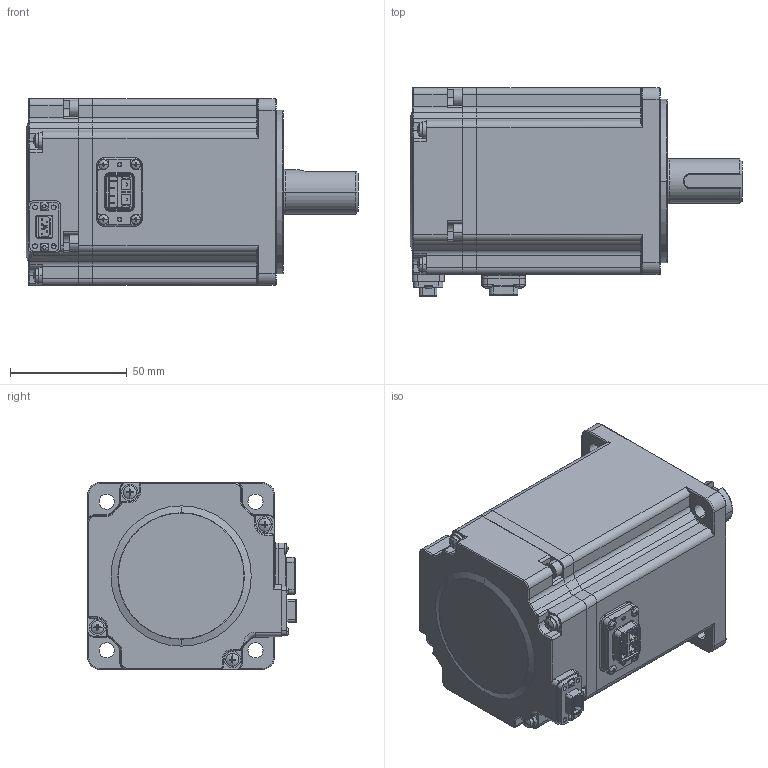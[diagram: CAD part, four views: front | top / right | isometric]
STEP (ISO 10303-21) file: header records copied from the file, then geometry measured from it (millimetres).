
FILE_DESCRIPTION(('FreeCAD Model'),'2;1');
FILE_NAME('Open CASCADE Shape Model','2025-03-17T11:45:41',('Author'),( ''),'Open CASCADE STEP processor 7.6','FreeCAD','Unknown');
FILE_SCHEMA(('AUTOMOTIVE_DESIGN { 1 0 10303 214 1 1 1 1 }'));
Length unit declared in the file: millimetre
Products named in the file (35): PSM6S-80CS30B3-20P7; PSM6S-80CS30B3-20P008; PSM6S-80CS30B3-20P009; PSM6S-80CS30B3-20P010; PSM6S-80CS30B3-20P011; PSM6S-80CS30B3-20P012; PSM6S-80CS30B3-20P013; PSM6S-80CS30B3-20P014; PSM6S-80CS30B3-20P015; PSM6S-80CS30B3-20P016; PSM6S-80CS30B3-20P017; PSM6S-80CS30B3-20P018; PSM6S-80CS30B3-20P019; PSM6S-80CS30B3-20P020; PSM6S-80CS30B3-20P021; PSM6S-80CS30B3-20P022; PSM6S-80CS30B3-20P023; PSM6S-80CS30B3-20P024; PSM6S-80CS30B3-20P025; PSM6S-80CS30B3-20P026; PSM6S-80CS30B3-20P027; PSM6S-80CS30B3-20P028; PSM6S-80CS30B3-20P029; PSM6S-80CS30B3-20P030; PSM6S-80CS30B3-20P031; PSM6S-80CS30B3-20P032; PSM6S-80CS30B3-20P033; PSM6S-80CS30B3-20P034; PSM6S-80CS30B3-20P035; PSM6S-80CS30B3-20P036; PSM6S-80CS30B3-20P037; PSM6S-80CS30B3-20P038; PSM6S-80CS30B3-20P039; PSM6S-80CS30B3-20P040; PSM6S-80CS30B3-20P041
Assembly tree (34 placements, depth 2):
  PSM6S-80CS30B3-20P7
    PSM6S-80CS30B3-20P008
    PSM6S-80CS30B3-20P009
    PSM6S-80CS30B3-20P010
    PSM6S-80CS30B3-20P011
    PSM6S-80CS30B3-20P012
    PSM6S-80CS30B3-20P013
    PSM6S-80CS30B3-20P014
    PSM6S-80CS30B3-20P015
    PSM6S-80CS30B3-20P016
    PSM6S-80CS30B3-20P017
    PSM6S-80CS30B3-20P018
    PSM6S-80CS30B3-20P019
    PSM6S-80CS30B3-20P020
    PSM6S-80CS30B3-20P021
    PSM6S-80CS30B3-20P022
    PSM6S-80CS30B3-20P023
    PSM6S-80CS30B3-20P024
    PSM6S-80CS30B3-20P025
    PSM6S-80CS30B3-20P026
    PSM6S-80CS30B3-20P027
    PSM6S-80CS30B3-20P028
    PSM6S-80CS30B3-20P029
    PSM6S-80CS30B3-20P030
    PSM6S-80CS30B3-20P031
    PSM6S-80CS30B3-20P032
    PSM6S-80CS30B3-20P033
    PSM6S-80CS30B3-20P034
    PSM6S-80CS30B3-20P035
    PSM6S-80CS30B3-20P036
    PSM6S-80CS30B3-20P037
    PSM6S-80CS30B3-20P038
    PSM6S-80CS30B3-20P039
    PSM6S-80CS30B3-20P040
    PSM6S-80CS30B3-20P041
Bounding box: 142.1 x 89.3 x 80 mm (x, y, z)
Surface area: 56523.5 mm2 (no closed solid volume)
Topology: 0 solids, 34 shells, 881 faces, 2822 edges, 1926 vertices
Faces by surface type: plane 381, cylinder 315, torus 92, sphere 44, cone 27, bspline 18, revolution 4
Entity records: 33068 total; most frequent: CARTESIAN_POINT 6939, DIRECTION 5699, ORIENTED_EDGE 4694, EDGE_CURVE 2801, AXIS2_PLACEMENT_3D 2068, VERTEX_POINT 1926, LINE 1559, VECTOR 1559
